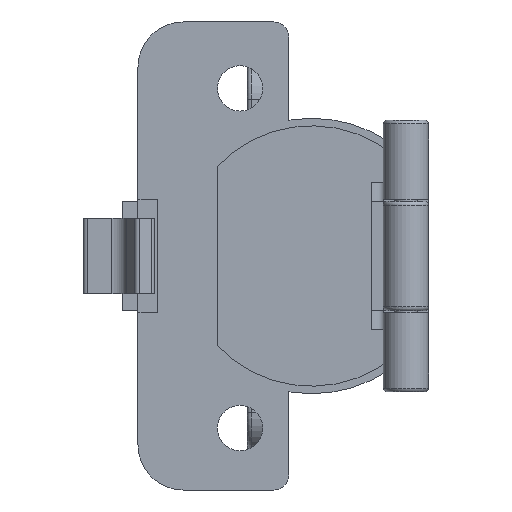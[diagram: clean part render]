
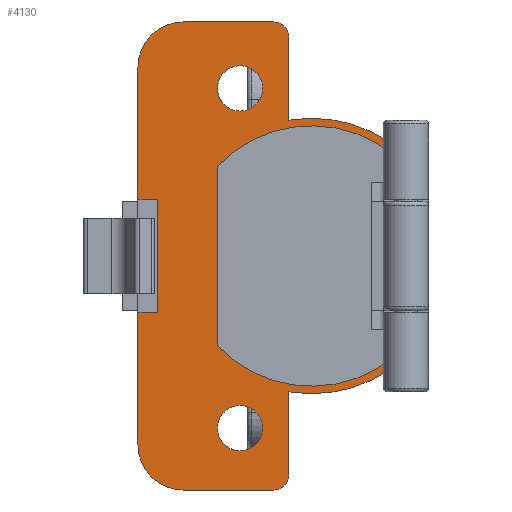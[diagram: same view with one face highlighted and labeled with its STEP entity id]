
A CAD part, front view. The second image highlights one B-rep face of the part: STEP entity #4130.
In plain terms, the highlighted planar face has unit normal (0, -1, 0) as drawn and (0, 1, 0) by its records, which use the part's own axes.
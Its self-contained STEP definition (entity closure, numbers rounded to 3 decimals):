
#190=FACE_BOUND('',#809,.T.);
#191=FACE_BOUND('',#810,.T.);
#306=PLANE('',#4528);
#543=FACE_OUTER_BOUND('',#808,.T.);
#808=EDGE_LOOP('',(#3717,#3718,#3719,#3720,#3721,#3722,#3723,#3724,#3725,
#3726,#3727,#3728,#3729,#3730,#3731,#3732,#3733,#3734,#3735,#3736,#3737,
#3738));
#809=EDGE_LOOP('',(#3739));
#810=EDGE_LOOP('',(#3740));
#976=CIRCLE('',#4452,3.);
#979=CIRCLE('',#4457,3.);
#990=CIRCLE('',#4474,2.);
#991=CIRCLE('',#4477,6.);
#1006=CIRCLE('',#4524,6.);
#1007=CIRCLE('',#4527,2.);
#1008=CIRCLE('',#4529,18.25);
#1009=CIRCLE('',#4530,17.25);
#1010=CIRCLE('',#4531,17.25);
#1011=CIRCLE('',#4532,18.25);
#1283=LINE('',#6725,#1658);
#1289=LINE('',#6738,#1664);
#1296=LINE('',#6755,#1671);
#1300=LINE('',#6762,#1675);
#1329=LINE('',#6849,#1704);
#1330=LINE('',#6852,#1705);
#1334=LINE('',#6859,#1709);
#1340=LINE('',#6871,#1715);
#1367=LINE('',#6928,#1742);
#1370=LINE('',#6932,#1745);
#1373=LINE('',#6939,#1748);
#1380=LINE('',#6958,#1755);
#1381=LINE('',#6964,#1756);
#1382=LINE('',#6968,#1757);
#1658=VECTOR('',#5459,11.003);
#1664=VECTOR('',#5471,12.);
#1671=VECTOR('',#5484,17.5);
#1675=VECTOR('',#5488,17.5);
#1704=VECTOR('',#5561,2.582);
#1705=VECTOR('',#5564,15.);
#1709=VECTOR('',#5572,2.582);
#1715=VECTOR('',#5584,19.5);
#1742=VECTOR('',#5631,2.108);
#1745=VECTOR('',#5634,2.108);
#1748=VECTOR('',#5639,11.003);
#1755=VECTOR('',#5662,12.);
#1756=VECTOR('',#5671,1.515);
#1757=VECTOR('',#5676,1.515);
#2027=VERTEX_POINT('',#6670);
#2030=VERTEX_POINT('',#6678);
#2043=VERTEX_POINT('',#6722);
#2044=VERTEX_POINT('',#6724);
#2047=VERTEX_POINT('',#6732);
#2048=VERTEX_POINT('',#6736);
#2049=VERTEX_POINT('',#6740);
#2054=VERTEX_POINT('',#6752);
#2055=VERTEX_POINT('',#6754);
#2058=VERTEX_POINT('',#6760);
#2085=VERTEX_POINT('',#6847);
#2086=VERTEX_POINT('',#6851);
#2089=VERTEX_POINT('',#6868);
#2090=VERTEX_POINT('',#6870);
#2107=VERTEX_POINT('',#6913);
#2110=VERTEX_POINT('',#6927);
#2111=VERTEX_POINT('',#6930);
#2113=VERTEX_POINT('',#6936);
#2114=VERTEX_POINT('',#6938);
#2116=VERTEX_POINT('',#6948);
#2117=VERTEX_POINT('',#6952);
#2118=VERTEX_POINT('',#6956);
#2119=VERTEX_POINT('',#6963);
#2120=VERTEX_POINT('',#6966);
#2530=EDGE_CURVE('',#2027,#2027,#976,.T.);
#2533=EDGE_CURVE('',#2030,#2030,#979,.T.);
#2551=EDGE_CURVE('',#2044,#2043,#1283,.T.);
#2556=EDGE_CURVE('',#2043,#2047,#990,.T.);
#2558=EDGE_CURVE('',#2047,#2048,#1289,.T.);
#2560=EDGE_CURVE('',#2048,#2049,#991,.T.);
#2566=EDGE_CURVE('',#2055,#2054,#1296,.T.);
#2570=EDGE_CURVE('',#2049,#2058,#1300,.T.);
#2609=EDGE_CURVE('',#2058,#2085,#1329,.T.);
#2610=EDGE_CURVE('',#2085,#2086,#1330,.T.);
#2614=EDGE_CURVE('',#2086,#2055,#1334,.T.);
#2620=EDGE_CURVE('',#2089,#2090,#1340,.T.);
#2649=EDGE_CURVE('',#2090,#2110,#1367,.T.);
#2652=EDGE_CURVE('',#2111,#2089,#1370,.T.);
#2655=EDGE_CURVE('',#2114,#2113,#1373,.T.);
#2663=EDGE_CURVE('',#2054,#2117,#1006,.T.);
#2665=EDGE_CURVE('',#2117,#2118,#1380,.T.);
#2666=EDGE_CURVE('',#2118,#2114,#1007,.T.);
#2667=EDGE_CURVE('',#2116,#2113,#1008,.T.);
#2668=EDGE_CURVE('',#2119,#2116,#1381,.T.);
#2669=EDGE_CURVE('',#2110,#2119,#1009,.T.);
#2670=EDGE_CURVE('',#2120,#2111,#1010,.T.);
#2671=EDGE_CURVE('',#2107,#2120,#1382,.T.);
#2672=EDGE_CURVE('',#2044,#2107,#1011,.T.);
#3717=ORIENTED_EDGE('',*,*,#2614,.T.);
#3718=ORIENTED_EDGE('',*,*,#2566,.T.);
#3719=ORIENTED_EDGE('',*,*,#2663,.T.);
#3720=ORIENTED_EDGE('',*,*,#2665,.T.);
#3721=ORIENTED_EDGE('',*,*,#2666,.T.);
#3722=ORIENTED_EDGE('',*,*,#2655,.T.);
#3723=ORIENTED_EDGE('',*,*,#2667,.F.);
#3724=ORIENTED_EDGE('',*,*,#2668,.F.);
#3725=ORIENTED_EDGE('',*,*,#2669,.F.);
#3726=ORIENTED_EDGE('',*,*,#2649,.F.);
#3727=ORIENTED_EDGE('',*,*,#2620,.F.);
#3728=ORIENTED_EDGE('',*,*,#2652,.F.);
#3729=ORIENTED_EDGE('',*,*,#2670,.F.);
#3730=ORIENTED_EDGE('',*,*,#2671,.F.);
#3731=ORIENTED_EDGE('',*,*,#2672,.F.);
#3732=ORIENTED_EDGE('',*,*,#2551,.T.);
#3733=ORIENTED_EDGE('',*,*,#2556,.T.);
#3734=ORIENTED_EDGE('',*,*,#2558,.T.);
#3735=ORIENTED_EDGE('',*,*,#2560,.T.);
#3736=ORIENTED_EDGE('',*,*,#2570,.T.);
#3737=ORIENTED_EDGE('',*,*,#2609,.T.);
#3738=ORIENTED_EDGE('',*,*,#2610,.T.);
#3739=ORIENTED_EDGE('',*,*,#2530,.T.);
#3740=ORIENTED_EDGE('',*,*,#2533,.T.);
#4130=ADVANCED_FACE('',(#543,#190,#191),#306,.F.);
#4452=AXIS2_PLACEMENT_3D('',#6671,#5410,#5411);
#4457=AXIS2_PLACEMENT_3D('',#6679,#5420,#5421);
#4474=AXIS2_PLACEMENT_3D('',#6734,#5466,#5467);
#4477=AXIS2_PLACEMENT_3D('',#6742,#5475,#5476);
#4524=AXIS2_PLACEMENT_3D('',#6954,#5657,#5658);
#4527=AXIS2_PLACEMENT_3D('',#6960,#5665,#5666);
#4528=AXIS2_PLACEMENT_3D('',#6961,#5667,#5668);
#4529=AXIS2_PLACEMENT_3D('',#6962,#5669,#5670);
#4530=AXIS2_PLACEMENT_3D('',#6965,#5672,#5673);
#4531=AXIS2_PLACEMENT_3D('',#6967,#5674,#5675);
#4532=AXIS2_PLACEMENT_3D('',#6969,#5677,#5678);
#5410=DIRECTION('center_axis',(0.,-1.,0.));
#5411=DIRECTION('ref_axis',(1.,0.,0.));
#5420=DIRECTION('center_axis',(0.,-1.,0.));
#5421=DIRECTION('ref_axis',(1.,0.,0.));
#5459=DIRECTION('',(-1.,0.,0.));
#5466=DIRECTION('center_axis',(0.,1.,0.));
#5467=DIRECTION('ref_axis',(0.,0.,-1.));
#5471=DIRECTION('',(0.,0.,1.));
#5475=DIRECTION('center_axis',(0.,1.,0.));
#5476=DIRECTION('ref_axis',(-1.,0.,0.));
#5484=DIRECTION('',(1.,0.,0.));
#5488=DIRECTION('',(1.,0.,0.));
#5561=DIRECTION('',(0.,0.,-1.));
#5564=DIRECTION('',(1.,0.,0.));
#5572=DIRECTION('',(0.,0.,1.));
#5584=DIRECTION('',(1.,0.,0.));
#5631=DIRECTION('',(1.,0.,0.));
#5634=DIRECTION('',(1.,0.,0.));
#5639=DIRECTION('',(-1.,0.,0.));
#5657=DIRECTION('center_axis',(0.,1.,0.));
#5658=DIRECTION('ref_axis',(0.,0.,1.));
#5662=DIRECTION('',(0.,0.,-1.));
#5665=DIRECTION('center_axis',(0.,1.,0.));
#5666=DIRECTION('ref_axis',(1.,0.,0.));
#5667=DIRECTION('center_axis',(0.,-1.,0.));
#5668=DIRECTION('ref_axis',(0.,0.,-1.));
#5669=DIRECTION('center_axis',(0.,-1.,0.));
#5670=DIRECTION('ref_axis',(1.,0.,0.));
#5671=DIRECTION('',(0.,0.,-1.));
#5672=DIRECTION('center_axis',(0.,1.,0.));
#5673=DIRECTION('ref_axis',(-0.687,0.,-0.726));
#5674=DIRECTION('center_axis',(0.,1.,0.));
#5675=DIRECTION('ref_axis',(0.747,0.,0.665));
#5676=DIRECTION('',(0.,0.,1.));
#5677=DIRECTION('center_axis',(0.,-1.,0.));
#5678=DIRECTION('ref_axis',(1.,0.,0.));
#6670=CARTESIAN_POINT('',(-25.205,-11.5,9.5));
#6671=CARTESIAN_POINT('Origin',(-22.205,-11.5,9.5));
#6678=CARTESIAN_POINT('',(19.795,-11.5,9.5));
#6679=CARTESIAN_POINT('Origin',(22.795,-11.5,9.5));
#6722=CARTESIAN_POINT('',(-29.,-11.5,3.028));
#6724=CARTESIAN_POINT('',(-17.997,-11.5,3.028));
#6725=CARTESIAN_POINT('',(29.,-11.5,3.028));
#6732=CARTESIAN_POINT('',(-31.,-11.5,5.028));
#6734=CARTESIAN_POINT('Origin',(-29.,-11.5,5.028));
#6736=CARTESIAN_POINT('',(-31.,-11.5,17.028));
#6738=CARTESIAN_POINT('',(-31.,-11.5,5.028));
#6740=CARTESIAN_POINT('',(-25.,-11.5,23.028));
#6742=CARTESIAN_POINT('Origin',(-25.,-11.5,17.028));
#6752=CARTESIAN_POINT('',(25.,-11.5,23.028));
#6754=CARTESIAN_POINT('',(7.5,-11.5,23.028));
#6755=CARTESIAN_POINT('',(-25.,-11.5,23.028));
#6760=CARTESIAN_POINT('',(-7.5,-11.5,23.028));
#6762=CARTESIAN_POINT('',(-25.,-11.5,23.028));
#6847=CARTESIAN_POINT('',(-7.5,-11.5,20.446));
#6849=CARTESIAN_POINT('',(-7.5,-11.5,13.341));
#6851=CARTESIAN_POINT('',(7.5,-11.5,20.446));
#6852=CARTESIAN_POINT('',(0.,-11.5,20.446));
#6859=CARTESIAN_POINT('',(7.5,-11.5,13.341));
#6868=CARTESIAN_POINT('',(-9.75,-11.5,12.528));
#6870=CARTESIAN_POINT('',(9.75,-11.5,12.528));
#6871=CARTESIAN_POINT('',(11.858,-11.5,12.528));
#6913=CARTESIAN_POINT('',(-13.323,-11.5,-12.472));
#6927=CARTESIAN_POINT('',(11.858,-11.5,12.528));
#6928=CARTESIAN_POINT('',(11.858,-11.5,12.528));
#6930=CARTESIAN_POINT('',(-11.858,-11.5,12.528));
#6932=CARTESIAN_POINT('',(11.858,-11.5,12.528));
#6936=CARTESIAN_POINT('',(17.997,-11.5,3.028));
#6938=CARTESIAN_POINT('',(29.,-11.5,3.028));
#6939=CARTESIAN_POINT('',(29.,-11.5,3.028));
#6948=CARTESIAN_POINT('',(13.323,-11.5,-12.472));
#6952=CARTESIAN_POINT('',(31.,-11.5,17.028));
#6954=CARTESIAN_POINT('Origin',(25.,-11.5,17.028));
#6956=CARTESIAN_POINT('',(31.,-11.5,5.028));
#6958=CARTESIAN_POINT('',(31.,-11.5,17.028));
#6960=CARTESIAN_POINT('Origin',(29.,-11.5,5.028));
#6961=CARTESIAN_POINT('Origin',(0.,-11.5,4.945));
#6962=CARTESIAN_POINT('Origin',(0.,-11.5,0.));
#6963=CARTESIAN_POINT('',(13.323,-11.5,-10.957));
#6964=CARTESIAN_POINT('',(13.323,-11.5,-12.472));
#6965=CARTESIAN_POINT('Origin',(0.,-11.5,0.));
#6966=CARTESIAN_POINT('',(-13.323,-11.5,-10.957));
#6967=CARTESIAN_POINT('Origin',(0.,-11.5,0.));
#6968=CARTESIAN_POINT('',(-13.323,-11.5,-10.957));
#6969=CARTESIAN_POINT('Origin',(0.,-11.5,0.));
